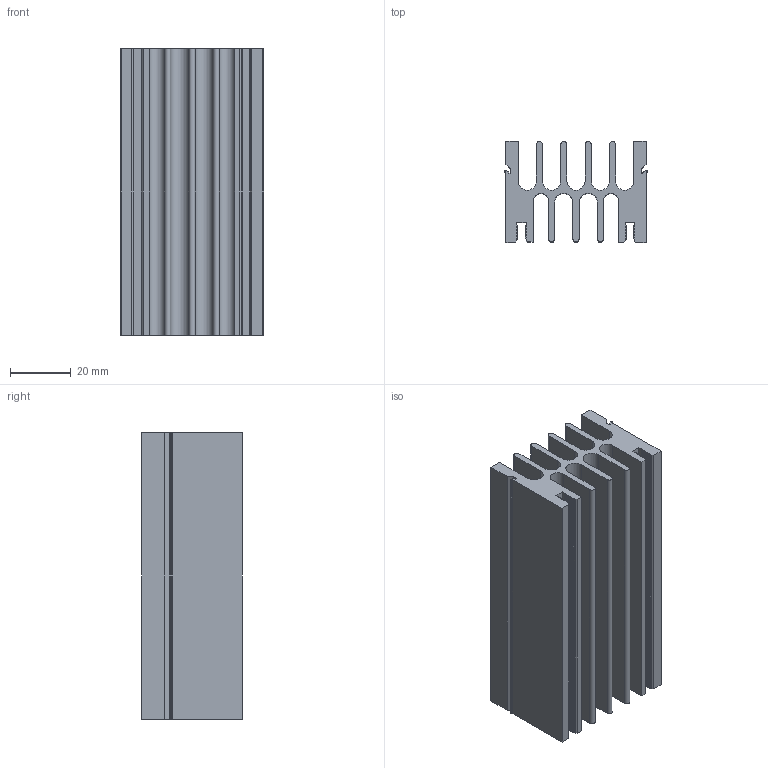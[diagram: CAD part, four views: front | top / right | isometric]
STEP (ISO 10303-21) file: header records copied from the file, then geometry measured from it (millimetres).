
FILE_DESCRIPTION (( 'STEP AP214' ), '1' );
FILE_NAME ('PR 293_94_SE_M3.STEP', '2004-04-02T11:58:32', ( '' ), ( '' ), 'SwSTEP 2.0', 'SolidWorks 2002349', '' );
FILE_SCHEMA (( 'AUTOMOTIVE_DESIGN' ));
Length unit declared in the file: millimetre
Products named in the file (1): PR 293_94_SE_M3
Bounding box: 47 x 33 x 94 mm (x, y, z)
Volume: 63350.1 mm3; surface area: 44516.4 mm2
Topology: 1 solids, 1 shells, 191 faces, 567 edges, 378 vertices
Faces by surface type: plane 171, cylinder 20
Entity records: 6324 total; most frequent: CARTESIAN_POINT 1137, ORIENTED_EDGE 1134, DIRECTION 991, EDGE_CURVE 567, LINE 527, VECTOR 527, VERTEX_POINT 378, AXIS2_PLACEMENT_3D 232
